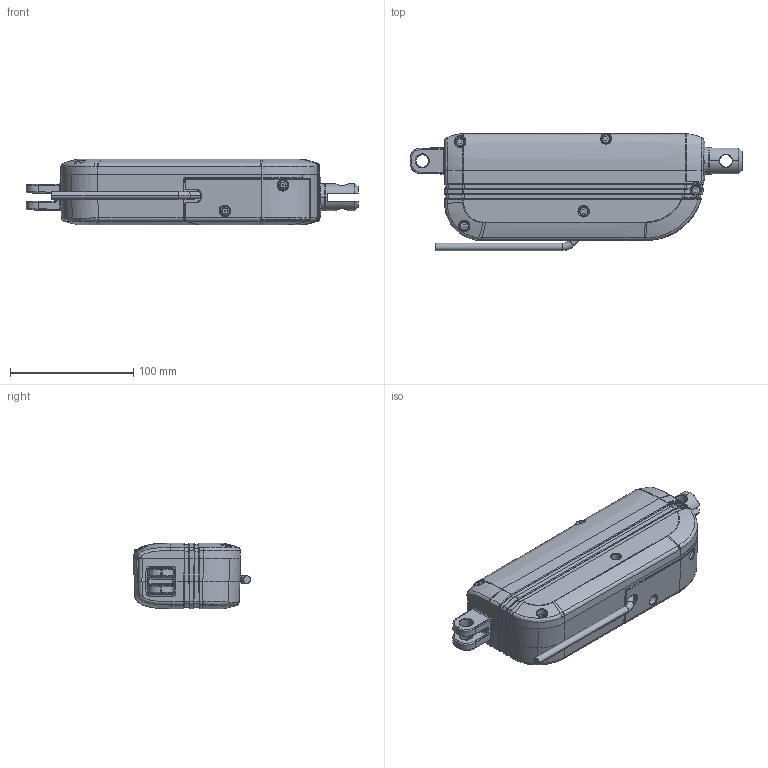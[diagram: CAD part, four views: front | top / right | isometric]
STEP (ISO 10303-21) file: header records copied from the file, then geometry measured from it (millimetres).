
FILE_DESCRIPTION((''),'2;1');
FILE_NAME('MK86-2026-0506_ASM','2026-05-06T',('lily'),(''),'PRO/ENGINEER BY PARAMETRIC TECHNOLOGY CORPORATION, 2016360','PRO/ENGINEER BY PARAMETRIC TECHNOLOGY CORPORATION, 2016360','');
FILE_SCHEMA(('CONFIG_CONTROL_DESIGN'));
Length unit declared in the file: millimetre
Products named in the file (3): MK83-2026-0506; 20260505_FRONT_FIXTURE_V2_10P2-; MK86-2026-0506_ASM
Assembly tree (2 placements, depth 2):
  MK86-2026-0506_ASM
    MK83-2026-0506
    20260505_FRONT_FIXTURE_V2_10P2-
Bounding box: 269.72 x 95.2 x 53.5 mm (x, y, z)
Volume: 943383.2 mm3; surface area: 91774 mm2
Topology: 2 solids, 7 shells, 971 faces, 2457 edges, 1511 vertices
Faces by surface type: bspline 392, cylinder 264, plane 200, torus 51, cone 42, sphere 14, extrusion 8
Entity records: 48078 total; most frequent: CARTESIAN_POINT 28289, ORIENTED_EDGE 4902, DIRECTION 2802, EDGE_CURVE 2451, VERTEX_POINT 1511, B_SPLINE_CURVE_WITH_KNOTS 1269, AXIS2_PLACEMENT_3D 1028, EDGE_LOOP 996
